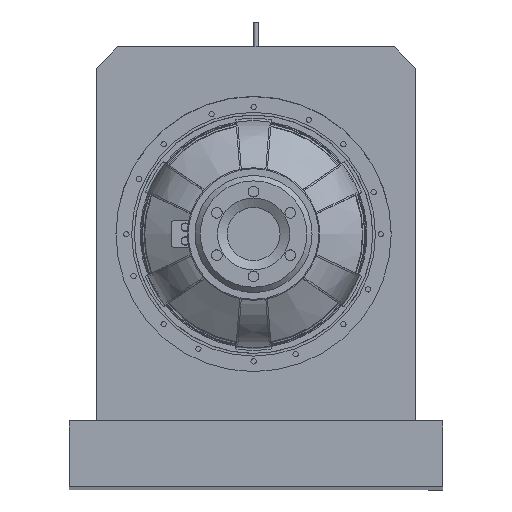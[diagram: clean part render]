
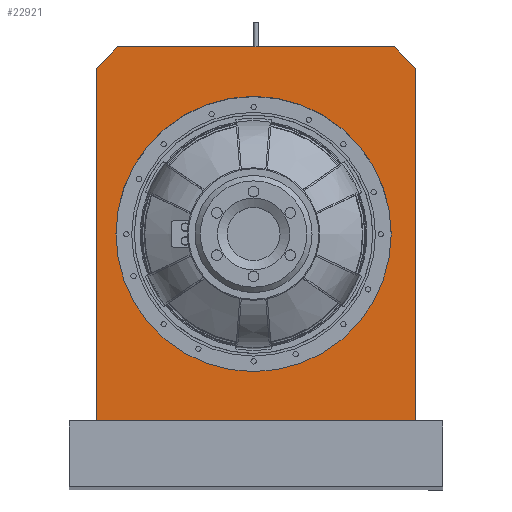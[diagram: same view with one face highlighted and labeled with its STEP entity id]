
A CAD part, top view. The second image highlights one B-rep face of the part: STEP entity #22921.
In plain terms, the highlighted planar face has unit normal (0, 0, 1) as drawn and (0, 0, -1) by its records, which use the part's own axes.
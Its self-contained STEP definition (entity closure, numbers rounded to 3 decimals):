
#1554=LINE('',#36015,#3264);
#1560=LINE('',#36026,#3270);
#1565=LINE('',#36056,#3275);
#1568=LINE('',#36061,#3278);
#1571=LINE('',#36070,#3281);
#1572=LINE('',#36072,#3282);
#3264=VECTOR('',#28090,10.);
#3270=VECTOR('',#28098,10.);
#3275=VECTOR('',#28125,10.);
#3278=VECTOR('',#28130,10.);
#3281=VECTOR('',#28141,10.);
#3282=VECTOR('',#28144,10.);
#5731=FACE_BOUND('',#7500,.T.);
#6081=FACE_OUTER_BOUND('',#7499,.T.);
#7499=EDGE_LOOP('',(#16403,#16404,#16405,#16406,#16407,#16408));
#7500=EDGE_LOOP('',(#16409));
#9051=CIRCLE('',#25302,147.205);
#10100=VERTEX_POINT('',#36013);
#10101=VERTEX_POINT('',#36014);
#10105=VERTEX_POINT('',#36024);
#10118=VERTEX_POINT('',#36054);
#10119=VERTEX_POINT('',#36055);
#10120=VERTEX_POINT('',#36060);
#10121=VERTEX_POINT('',#36064);
#12476=EDGE_CURVE('',#10100,#10101,#1554,.T.);
#12482=EDGE_CURVE('',#10100,#10105,#1560,.T.);
#12496=EDGE_CURVE('',#10118,#10119,#1565,.T.);
#12499=EDGE_CURVE('',#10120,#10119,#1568,.T.);
#12501=EDGE_CURVE('',#10121,#10121,#9051,.T.);
#12504=EDGE_CURVE('',#10118,#10101,#1571,.T.);
#12505=EDGE_CURVE('',#10105,#10120,#1572,.T.);
#16403=ORIENTED_EDGE('',*,*,#12476,.F.);
#16404=ORIENTED_EDGE('',*,*,#12482,.T.);
#16405=ORIENTED_EDGE('',*,*,#12505,.T.);
#16406=ORIENTED_EDGE('',*,*,#12499,.T.);
#16407=ORIENTED_EDGE('',*,*,#12496,.F.);
#16408=ORIENTED_EDGE('',*,*,#12504,.T.);
#16409=ORIENTED_EDGE('',*,*,#12501,.T.);
#22140=PLANE('',#25306);
#22921=ADVANCED_FACE('',(#6081,#5731),#22140,.F.);
#25302=AXIS2_PLACEMENT_3D('',#36065,#28134,#28135);
#25306=AXIS2_PLACEMENT_3D('',#36073,#28145,#28146);
#28090=DIRECTION('',(-0.707,0.707,0.));
#28098=DIRECTION('',(0.,-1.,0.));
#28125=DIRECTION('',(-0.707,-0.707,0.));
#28130=DIRECTION('',(0.,1.,0.));
#28134=DIRECTION('center_axis',(0.,0.,1.));
#28135=DIRECTION('ref_axis',(-1.,0.,0.));
#28141=DIRECTION('',(1.,0.,0.));
#28144=DIRECTION('',(-1.,0.,0.));
#28145=DIRECTION('center_axis',(0.,0.,1.));
#28146=DIRECTION('ref_axis',(1.,0.,0.));
#36013=CARTESIAN_POINT('',(167.97,177.363,-165.467));
#36014=CARTESIAN_POINT('',(145.333,200.,-165.467));
#36015=CARTESIAN_POINT('',(164.007,181.326,-165.467));
#36024=CARTESIAN_POINT('',(167.97,-200.,-165.467));
#36026=CARTESIAN_POINT('',(167.97,-200.,-165.467));
#36054=CARTESIAN_POINT('',(-150.547,200.,-165.467));
#36055=CARTESIAN_POINT('',(-173.184,177.363,-165.467));
#36056=CARTESIAN_POINT('',(-169.221,181.326,-165.467));
#36060=CARTESIAN_POINT('',(-173.184,-200.,-165.467));
#36061=CARTESIAN_POINT('',(-173.184,200.,-165.467));
#36064=CARTESIAN_POINT('',(147.205,0.,-165.467));
#36065=CARTESIAN_POINT('Origin',(0.,0.,-165.467));
#36070=CARTESIAN_POINT('',(167.97,200.,-165.467));
#36072=CARTESIAN_POINT('',(-173.184,-200.,-165.467));
#36073=CARTESIAN_POINT('Origin',(-2.607,0.,-165.467));
